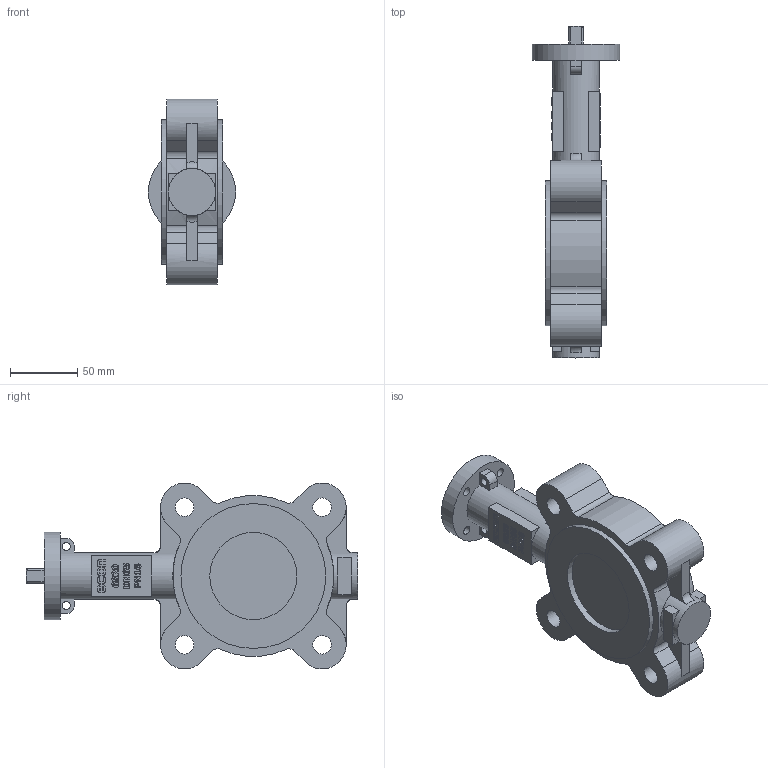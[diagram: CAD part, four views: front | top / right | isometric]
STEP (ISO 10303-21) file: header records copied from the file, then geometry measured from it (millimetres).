
FILE_DESCRIPTION(/* description */ (''),/* implementation_level */ '2;1');
FILE_NAME(/* name */ '6820-DN65-PN16-EPDM - 13332746.stp',/* time_stamp */ '2024-09-04T21:46:24+02:00',/* author */ ('roger.thijssen'),/* organization */ (''),/* preprocessor_version */ 'ST-DEVELOPER v20',/* originating_system */ 'Autodesk Inventor 2024',/* authorisation */ '');
FILE_SCHEMA (('AUTOMOTIVE_DESIGN { 1 0 10303 214 3 1 1 }'));
Length unit declared in the file: millimetre
Products named in the file (1): 6820-DN65-PN16
Bounding box: 65 x 247.5 x 138.39 mm (x, y, z)
Volume: 755748.6 mm3; surface area: 86828.3 mm2
Topology: 1 solids, 1 shells, 466 faces, 1260 edges, 836 vertices
Faces by surface type: plane 252, bspline 134, cylinder 72, torus 4, cone 4
Full cylindrical faces by diameter (mm): 4.917 x1, 6 x2, 6.5 x4, 13.835 x4, 35 x2, 65 x3, 108 x2
Entity records: 16512 total; most frequent: CARTESIAN_POINT 4982, ORIENTED_EDGE 2520, DIRECTION 1826, EDGE_CURVE 1260, VERTEX_POINT 836, LINE 780, VECTOR 780, EDGE_LOOP 526
